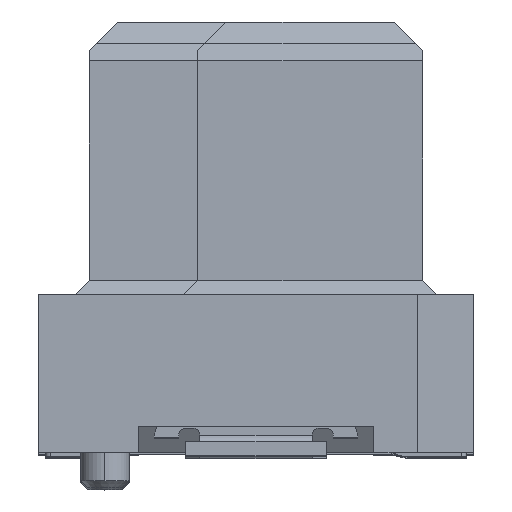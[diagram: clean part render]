
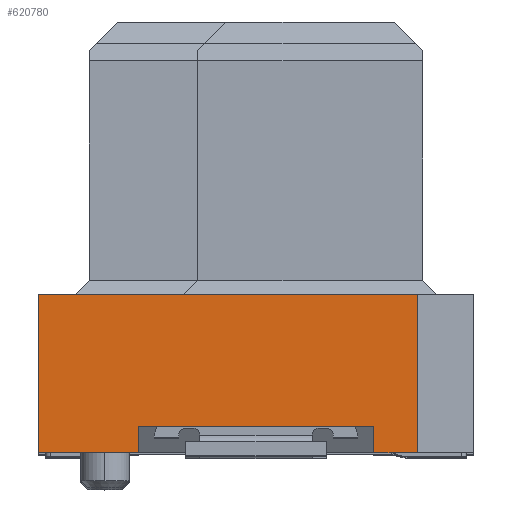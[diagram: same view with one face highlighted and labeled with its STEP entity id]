
A CAD part, top view. The second image highlights one B-rep face of the part: STEP entity #620780.
In plain terms, the highlighted planar face has unit normal (0, 0, 1).
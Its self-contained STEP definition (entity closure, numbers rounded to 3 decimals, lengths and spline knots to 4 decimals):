
#615410=CARTESIAN_POINT('',(5.4,4.25,14.81));
#615420=VERTEX_POINT('',#615410);
#615450=CARTESIAN_POINT('',(5.47,4.25,14.81));
#615460=DIRECTION('',(-1.,0.,0.));
#615470=VECTOR('',#615460,1.);
#615480=LINE('',#615450,#615470);
#615490=CARTESIAN_POINT('',(0.,4.25,14.81));
#615500=VERTEX_POINT('',#615490);
#615510=EDGE_CURVE('',#615420,#615500,#615480,.T.);
#616420=CARTESIAN_POINT('',(0.,0.,14.81));
#616430=DIRECTION('',(0.,-1.,0.));
#616440=VECTOR('',#616430,1.);
#616450=LINE('',#616420,#616440);
#616460=CARTESIAN_POINT('',(0.,2.,14.81));
#616470=VERTEX_POINT('',#616460);
#616480=EDGE_CURVE('',#615500,#616470,#616450,.T.);
#616800=CARTESIAN_POINT('',(5.47,2.,14.81));
#616810=DIRECTION('',(-1.,0.,0.));
#616820=VECTOR('',#616810,1.);
#616830=LINE('',#616800,#616820);
#616840=CARTESIAN_POINT('',(1.425,2.,14.81));
#616850=VERTEX_POINT('',#616840);
#616860=EDGE_CURVE('',#616850,#616470,#616830,.T.);
#617080=CARTESIAN_POINT('',(4.775,2.,14.81));
#617090=VERTEX_POINT('',#617080);
#617120=CARTESIAN_POINT('',(5.4,2.,14.81));
#617130=VERTEX_POINT('',#617120);
#617140=EDGE_CURVE('',#617130,#617090,#616830,.T.);
#620390=CARTESIAN_POINT('',(5.47,4.25,14.81));
#620400=DIRECTION('',(0.,-0.,1.));
#620410=DIRECTION('',(0.,1.,0.));
#620420=AXIS2_PLACEMENT_3D('',#620390,#620400,#620410);
#620430=PLANE('',#620420);
#620440=ORIENTED_EDGE('',*,*,#616480,.T.);
#620450=ORIENTED_EDGE('',*,*,#615510,.T.);
#620460=CARTESIAN_POINT('',(5.4,2.125,14.81));
#620470=DIRECTION('',(0.,1.,0.));
#620480=VECTOR('',#620470,1.);
#620490=LINE('',#620460,#620480);
#620500=EDGE_CURVE('',#617130,#615420,#620490,.T.);
#620510=ORIENTED_EDGE('',*,*,#620500,.T.);
#620520=ORIENTED_EDGE('',*,*,#617140,.F.);
#620530=CARTESIAN_POINT('',(4.775,2.,14.81));
#620540=DIRECTION('',(0.,-1.,0.));
#620550=VECTOR('',#620540,1.);
#620560=LINE('',#620530,#620550);
#620570=CARTESIAN_POINT('',(4.775,2.37,14.81));
#620580=VERTEX_POINT('',#620570);
#620590=EDGE_CURVE('',#620580,#617090,#620560,.T.);
#620600=ORIENTED_EDGE('',*,*,#620590,.T.);
#620610=CARTESIAN_POINT('',(0.,2.37,14.81));
#620620=DIRECTION('',(1.,0.,0.));
#620630=VECTOR('',#620620,1.);
#620640=LINE('',#620610,#620630);
#620650=CARTESIAN_POINT('',(1.425,2.37,14.81));
#620660=VERTEX_POINT('',#620650);
#620670=EDGE_CURVE('',#620660,#620580,#620640,.T.);
#620680=ORIENTED_EDGE('',*,*,#620670,.T.);
#620690=CARTESIAN_POINT('',(1.425,2.,14.81));
#620700=DIRECTION('',(0.,1.,0.));
#620710=VECTOR('',#620700,1.);
#620720=LINE('',#620690,#620710);
#620730=EDGE_CURVE('',#616850,#620660,#620720,.T.);
#620740=ORIENTED_EDGE('',*,*,#620730,.T.);
#620750=ORIENTED_EDGE('',*,*,#616860,.F.);
#620760=EDGE_LOOP('',(#620750,#620740,#620680,#620600,#620520,#620510,
#620450,#620440));
#620770=FACE_OUTER_BOUND('',#620760,.T.);
#620780=ADVANCED_FACE('',(#620770),#620430,.T.);
